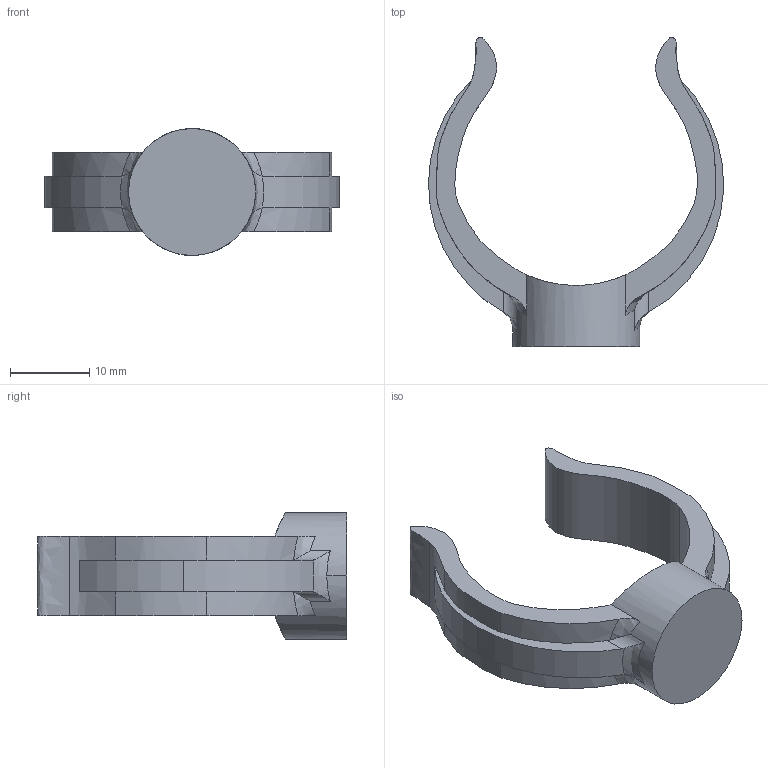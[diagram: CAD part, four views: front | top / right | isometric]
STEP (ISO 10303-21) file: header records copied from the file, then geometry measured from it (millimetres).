
FILE_DESCRIPTION (( 'STEP AP203' ), '1' );
FILE_NAME ('collier N2.STEP', '2025-09-04T13:38:58', ( '' ), ( '' ), 'SwSTEP 2.0', 'SolidWorks 2024', '' );
FILE_SCHEMA (( 'CONFIG_CONTROL_DESIGN' ));
Length unit declared in the file: millimetre
Products named in the file (1): collier N2
Bounding box: 37.18 x 38.95 x 16 mm (x, y, z)
Volume: 3871.1 mm3; surface area: 2785.1 mm2
Topology: 1 solids, 1 shells, 45 faces, 129 edges, 86 vertices
Faces by surface type: bspline 18, cylinder 16, plane 11
Entity records: 2130 total; most frequent: CARTESIAN_POINT 1035, ORIENTED_EDGE 258, DIRECTION 145, EDGE_CURVE 129, VERTEX_POINT 86, B_SPLINE_CURVE_WITH_KNOTS 64, AXIS2_PLACEMENT_3D 52, ADVANCED_FACE 45
